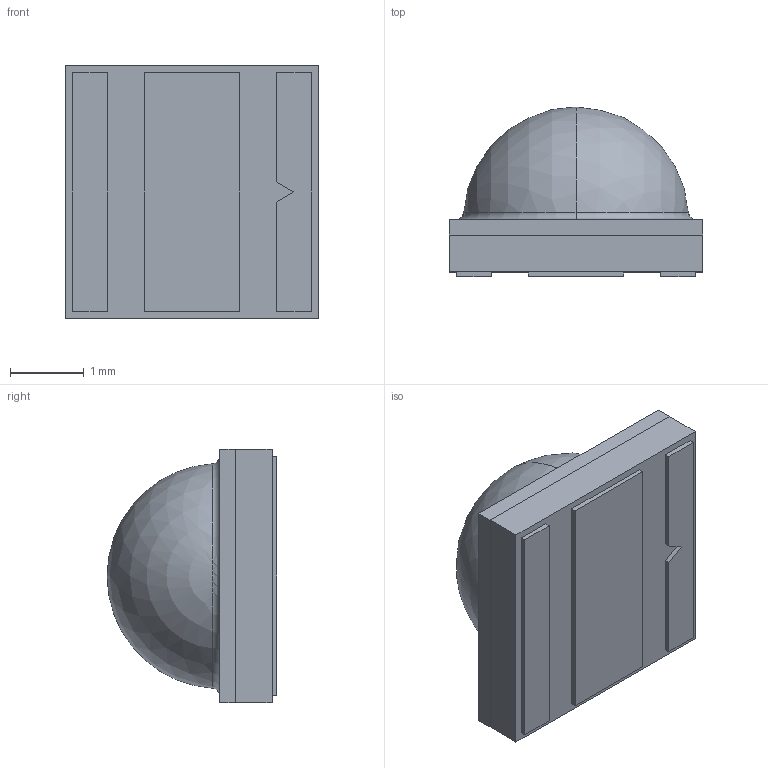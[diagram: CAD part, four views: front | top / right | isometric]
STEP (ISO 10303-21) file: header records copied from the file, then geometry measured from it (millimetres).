
FILE_DESCRIPTION (( 'STEP AP203' ), '1' );
FILE_NAME ('TF3&TG3&TK&TH&KH&TF-Blue&TH-Blue.STEP', '2024-01-18T06:36:01', ( '' ), ( '' ), 'SwSTEP 2.0', 'SolidWorks 2016', '' );
FILE_SCHEMA (( 'CONFIG_CONTROL_DESIGN' ));
Length unit declared in the file: millimetre
Products named in the file (1): TF3&TG3&TK&TH&KH&TF-Blue&TH-Blue
Bounding box: 3.45 x 2.31 x 3.45 mm (x, y, z)
Volume: 16.5 mm3; surface area: 66 mm2
Topology: 2 solids, 2 shells, 34 faces, 77 edges, 51 vertices
Faces by surface type: plane 30, torus 2, sphere 2
Entity records: 1016 total; most frequent: CARTESIAN_POINT 163, DIRECTION 155, ORIENTED_EDGE 154, EDGE_CURVE 77, LINE 69, VECTOR 69, VERTEX_POINT 51, AXIS2_PLACEMENT_3D 43
